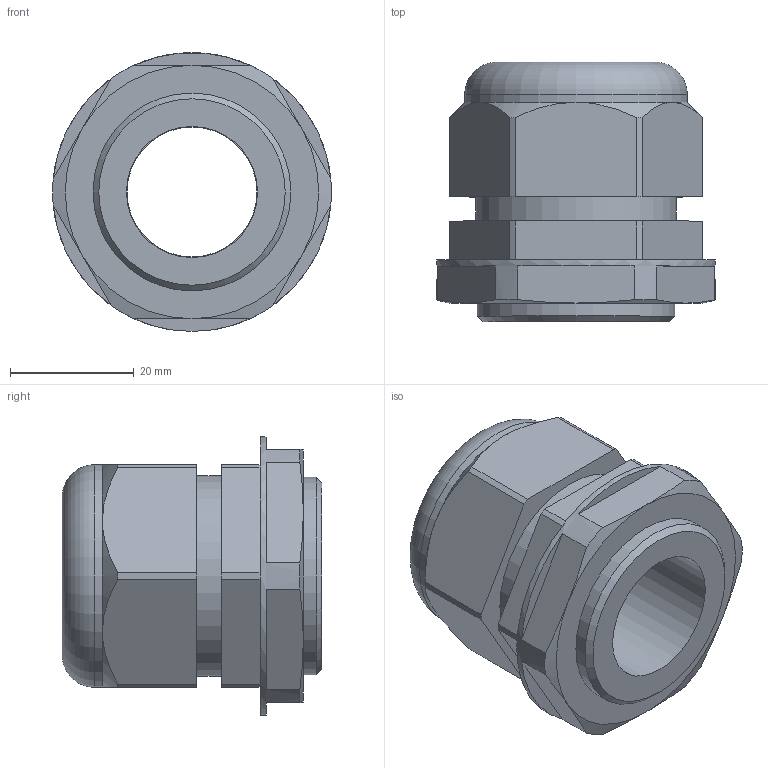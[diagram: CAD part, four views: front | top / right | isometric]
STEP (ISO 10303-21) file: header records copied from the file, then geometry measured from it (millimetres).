
FILE_DESCRIPTION( ( 'STEP AP214' ), '1' );
FILE_NAME( 'p:/temp/worker_191/temp/exporttempdir_288_33_3pHIY/format_0/2411.641(21).stp', '2020-06-09T13:45:33', ( 'License CC BY-ND 4.0' ), ( 'CADENAS' ), ' ', 'PARTsolutions', ' ' );
FILE_SCHEMA( ( 'AUTOMOTIVE_DESIGN { 1 0 10303 214 1 1 1 1 }' ) );
Length unit declared in the file: millimetre
Products named in the file (3): 2411.641(21); _2411.641(21)_01; _2411.641_02
Assembly tree (2 placements, depth 2):
  2411.641(21)
    _2411.641(21)_01
    _2411.641_02
Bounding box: 45.1 x 42 x 45.1 mm (x, y, z)
Volume: 31522 mm3; surface area: 12858.9 mm2
Topology: 2 solids, 2 shells, 70 faces, 166 edges, 105 vertices
Faces by surface type: plane 33, cylinder 20, cone 16, torus 1
Full cylindrical faces by diameter (mm): 21 x1, 21.2 x2, 30.376 x1, 32 x1, 32.4 x1, 36 x1, 45.1 x1
Entity records: 2684 total; most frequent: CARTESIAN_POINT 499, DIRECTION 340, ORIENTED_EDGE 302, EDGE_CURVE 151, AXIS2_PLACEMENT_3D 140, VERTEX_POINT 103, EDGE_LOOP 92, FACE_OUTER_BOUND 79
